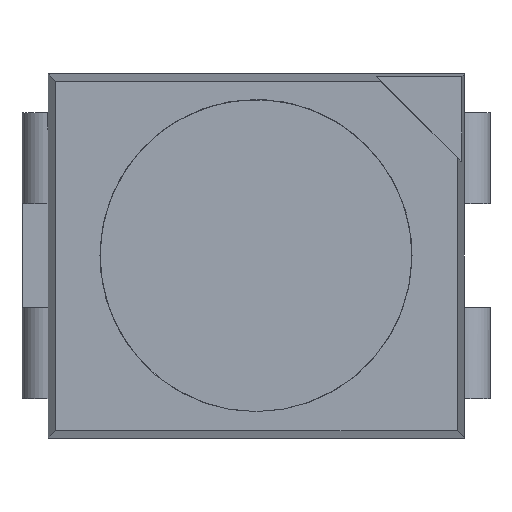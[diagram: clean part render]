
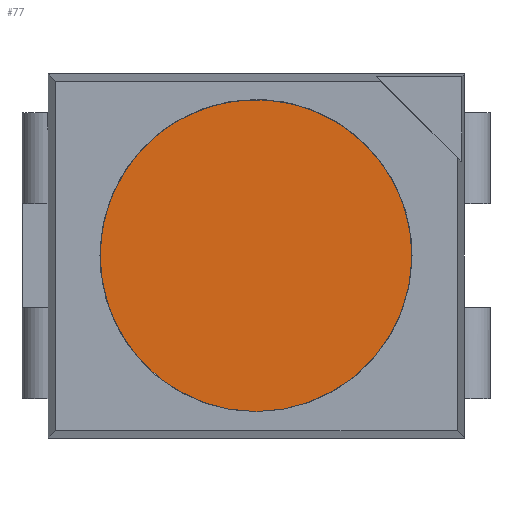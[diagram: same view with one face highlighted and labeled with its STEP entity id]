
A CAD part, top view. The second image highlights one B-rep face of the part: STEP entity #77.
In plain terms, the highlighted planar face has unit normal (0, 0, 1).
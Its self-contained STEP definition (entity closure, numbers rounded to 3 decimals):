
#77=ADVANCED_FACE('',(#173),#174,.F.);
#173=FACE_OUTER_BOUND('',#362,.T.);
#174=PLANE('',#363);
#362=EDGE_LOOP('',(#564,#565,#566));
#363=AXIS2_PLACEMENT_3D('',#567,#568,#569);
#564=ORIENTED_EDGE('',*,*,#1340,.F.);
#565=ORIENTED_EDGE('',*,*,#1339,.F.);
#566=ORIENTED_EDGE('',*,*,#1341,.F.);
#567=CARTESIAN_POINT('',(-0.003,0.002,0.0));
#568=DIRECTION('',(-0.0,0.0,-1.0));
#569=DIRECTION('',(-1.0,0.,0.0));
#1339=EDGE_CURVE('',#1599,#1601,#1602,.T.);
#1340=EDGE_CURVE('',#1601,#1595,#1603,.T.);
#1341=EDGE_CURVE('',#1595,#1599,#1604,.T.);
#1595=VERTEX_POINT('',#2022);
#1599=VERTEX_POINT('',#2027);
#1601=VERTEX_POINT('',#2030);
#1602=CIRCLE('',#2031,1.2);
#1603=CIRCLE('',#2032,1.2);
#1604=CIRCLE('',#2033,1.2);
#2022=CARTESIAN_POINT('',(-1.155,-0.333,0.0));
#2027=CARTESIAN_POINT('',(1.149,0.337,0.0));
#2030=CARTESIAN_POINT('',(-0.003,-1.198,0.0));
#2031=AXIS2_PLACEMENT_3D('',#2683,#2684,#2685);
#2032=AXIS2_PLACEMENT_3D('',#2686,#2687,#2688);
#2033=AXIS2_PLACEMENT_3D('',#2689,#2690,#2691);
#2683=CARTESIAN_POINT('',(-0.003,0.002,0.0));
#2684=DIRECTION('',(0.0,0.0,-1.0));
#2685=DIRECTION('',(0.,1.0,0.0));
#2686=CARTESIAN_POINT('',(-0.003,0.002,0.0));
#2687=DIRECTION('',(0.0,0.0,-1.0));
#2688=DIRECTION('',(0.,1.0,0.0));
#2689=CARTESIAN_POINT('',(-0.003,0.002,0.0));
#2690=DIRECTION('',(0.0,0.0,-1.0));
#2691=DIRECTION('',(0.,1.0,0.0));
